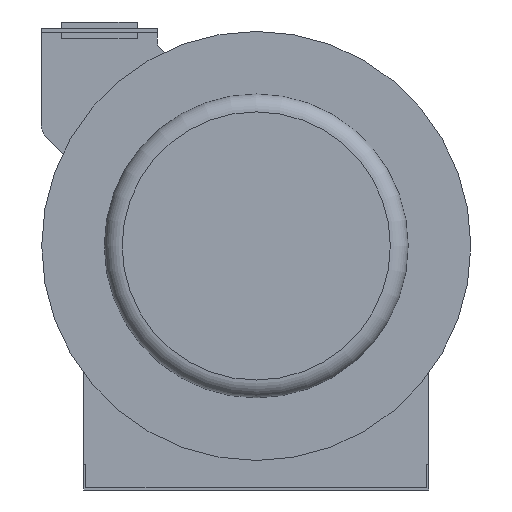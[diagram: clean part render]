
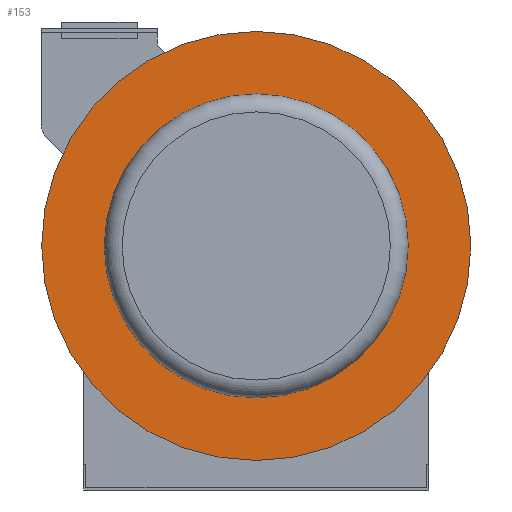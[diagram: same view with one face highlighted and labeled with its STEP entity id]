
A CAD part, left-side view. The second image highlights one B-rep face of the part: STEP entity #153.
In plain terms, the highlighted planar face has unit normal (-1, 0, 0).
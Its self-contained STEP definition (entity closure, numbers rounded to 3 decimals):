
#153 = ADVANCED_FACE( '', ( #395, #396 ), #397, .T. );
#395 = FACE_OUTER_BOUND( '', #761, .T. );
#396 = FACE_BOUND( '', #762, .T. );
#397 = PLANE( '', #763 );
#761 = EDGE_LOOP( '', ( #1176 ) );
#762 = EDGE_LOOP( '', ( #1177 ) );
#763 = AXIS2_PLACEMENT_3D( '', #1178, #1179, #1180 );
#1176 = ORIENTED_EDGE( '', *, *, #1939, .T. );
#1177 = ORIENTED_EDGE( '', *, *, #1892, .T. );
#1178 = CARTESIAN_POINT( '', ( -132.258, 0., 101.6 ) );
#1179 = DIRECTION( '', ( -1., 0., 0. ) );
#1180 = DIRECTION( '', ( 0., 0., 1. ) );
#1892 = EDGE_CURVE( '', #2207, #2207, #2208, .F. );
#1939 = EDGE_CURVE( '', #2290, #2290, #2291, .T. );
#2207 = VERTEX_POINT( '', #2664 );
#2208 = CIRCLE( '', #2665, 107.95 );
#2290 = VERTEX_POINT( '', #2775 );
#2291 = CIRCLE( '', #2776, 152.4 );
#2664 = CARTESIAN_POINT( '', ( -132.258, 0., 107.95 ) );
#2665 = AXIS2_PLACEMENT_3D( '', #3298, #3299, #3300 );
#2775 = CARTESIAN_POINT( '', ( -132.258, 0., 152.4 ) );
#2776 = AXIS2_PLACEMENT_3D( '', #3350, #3351, #3352 );
#3298 = CARTESIAN_POINT( '', ( -132.258, 0., 0. ) );
#3299 = DIRECTION( '', ( -1., 0., 0. ) );
#3300 = DIRECTION( '', ( 0., 0., 1. ) );
#3350 = CARTESIAN_POINT( '', ( -132.258, 0., 0. ) );
#3351 = DIRECTION( '', ( -1., 0., 0. ) );
#3352 = DIRECTION( '', ( 0., 0., 1. ) );
